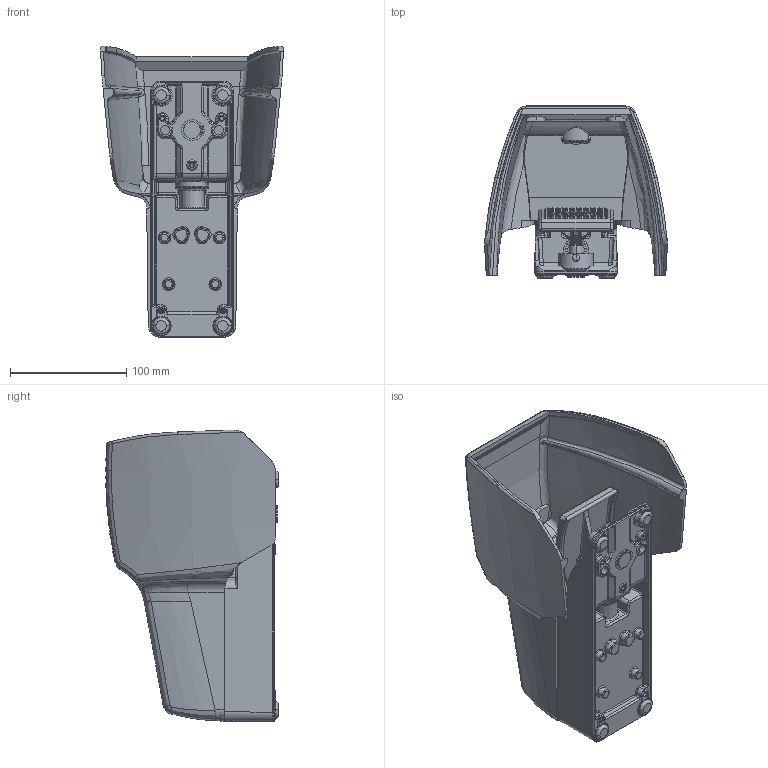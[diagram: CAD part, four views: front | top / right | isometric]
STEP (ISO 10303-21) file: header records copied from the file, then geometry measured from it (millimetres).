
FILE_DESCRIPTION((''),'2;1');
FILE_NAME('6161800073','2025-04-04T12:14:23',('Johann.tissen'),(''),'CREO PARAMETRIC BY PTC INC, 2022124','CREO PARAMETRIC BY PTC INC, 2022124','');
FILE_SCHEMA(('AUTOMOTIVE_DESIGN { 1 0 10303 214 1 1 1 1 }'));
Products named in the file (1): 6161800073
Bounding box: 157.02 x 148.49 x 250.7 mm (x, y, z)
Surface area: 218776.5 mm2 (no closed solid volume)
Topology: 0 solids, 1 shells, 2397 faces, 5495 edges, 3315 vertices
Faces by surface type: plane 1077, cylinder 587, bspline 383, torus 186, cone 88, sphere 70, extrusion 6
Entity records: 101075 total; most frequent: CARTESIAN_POINT 49868, ORIENTED_EDGE 10960, DIRECTION 9713, EDGE_CURVE 5480, AXIS2_PLACEMENT_3D 3475, VERTEX_POINT 3315, VECTOR 2760, LINE 2754
